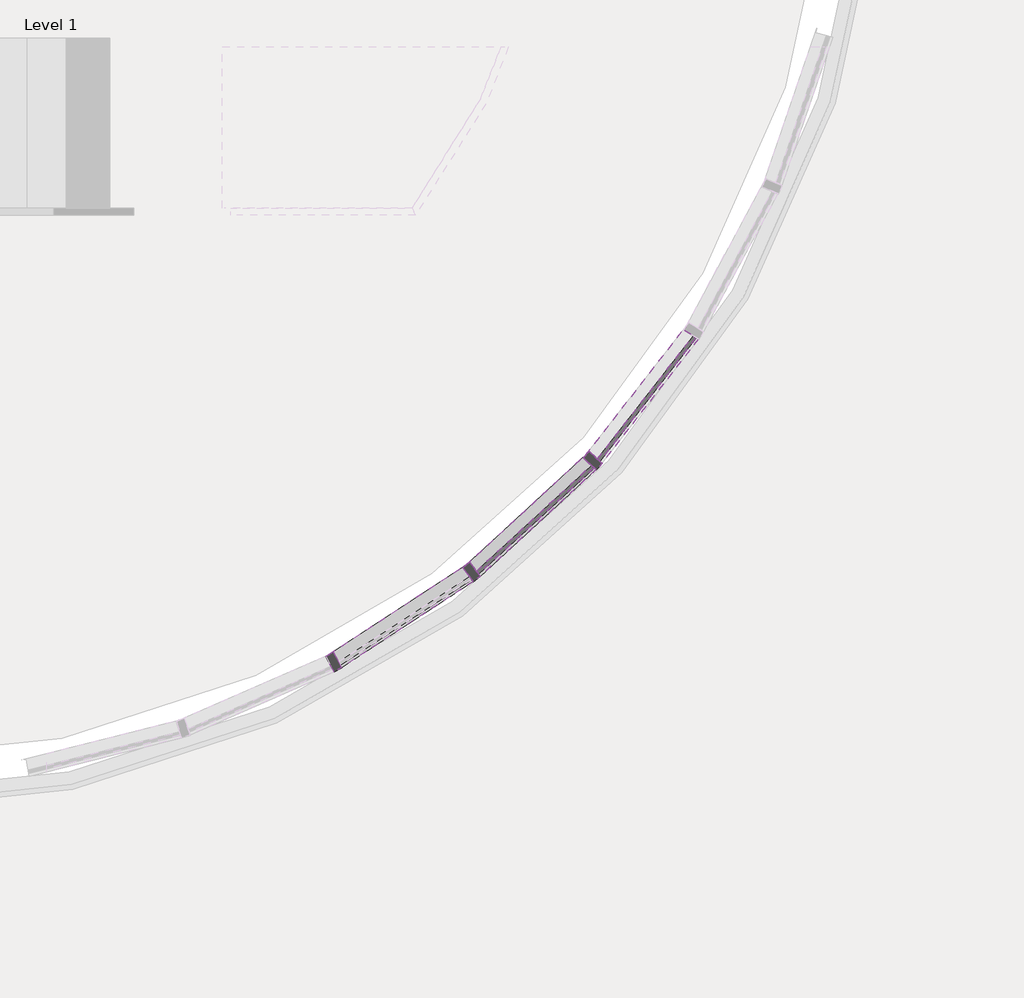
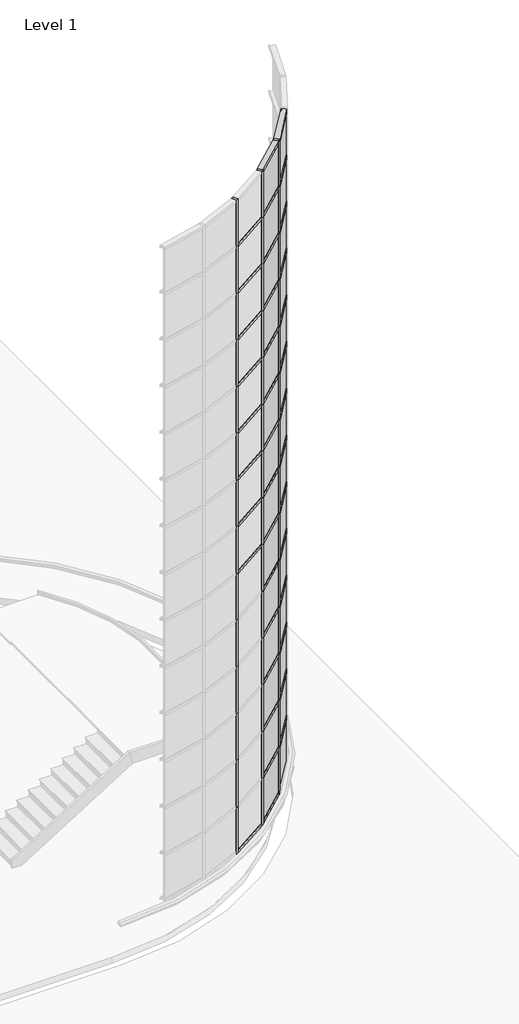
# One storey, part 6 of 20: 80 members, 28 plates.
"""IFC4 building model written with IfcOpenShell, lengths in millimetres."""

from ifc_helpers import new_model, si_unit, origin, place, context, project, spatial, transform, mapped, element, save
from components import member_68fe8548, member_f830fa99, member_935f61b8, system_panel_glazed_da602fa6, system_panel_glazed_77fd207e

model = new_model("IFC4")

# Units and contexts
model_context = context("Model", 3, world=origin())
ifc_project = project(units=[si_unit("LENGTHUNIT", "METRE", prefix="MILLI")], contexts=[model_context])

# Site, building, storey
site = spatial("IfcSite", under=ifc_project)
building = spatial("IfcBuilding", under=site)
storey = spatial("IfcBuildingStorey", under=building, Name="Level 1", Elevation=0.0)

# Members
placement = place(None, origin())
member_shape = member_68fe8548(model_context)
element("IfcMember", 1, ObjectType="Rectangular Mullion : 2.5\" x 5\" rectangular", at=placement, inside=storey, context=model_context, shape_type="MappedRepresentation", body=[
    mapped(member_shape, transform((23209.7590298, -7315.8596282, 17983.2), x_axis=(0.0, 0.0, 1.0), y_axis=(-0.7891405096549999, 0.6142127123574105, 0.0), z_axis=(-0.6142127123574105, -0.7891405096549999, 0.0))),
])
element("IfcMember", 2, ObjectType="Rectangular Mullion : 2.5\" x 5\" rectangular", at=placement, inside=storey, context=model_context, shape_type="MappedRepresentation", body=[
    mapped(member_shape, transform((22346.1500877, -8117.9707079, 17983.2), x_axis=(0.0, 0.0, 1.0), y_axis=(-0.6772815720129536, 0.7357239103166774, 0.0), z_axis=(-0.7357239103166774, -0.6772815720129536, 0.0))),
])
element("IfcMember", 3, ObjectType="Rectangular Mullion : 2.5\" x 5\" rectangular", at=placement, inside=storey, context=model_context, shape_type="MappedRepresentation", body=[
    mapped(member_shape, transform((23166.898542, -7362.4185293, 1092.2), x_axis=(0.0, 0.0, -1.0), y_axis=(-0.6772815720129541, 0.735723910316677, 0.0), z_axis=(0.7357239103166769, 0.677281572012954, 0.0))),
])
element("IfcMember", 4, ObjectType="Rectangular Mullion : 2.5\" x 5\" rectangular", at=placement, inside=storey, context=model_context, shape_type="MappedRepresentation", body=[
    mapped(member_shape, transform((22296.2108179, -8156.8400019, 1092.2), x_axis=(0.0, 0.0, -1.0), y_axis=(-0.5469481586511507, 0.8371664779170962, 0.0), z_axis=(0.8371664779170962, 0.5469481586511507, 0.0))),
])
member_2_shape = member_f830fa99(model_context)
element("IfcMember", 5, ObjectType="Rectangular Mullion : 2.5\" x 5\" rectangular", at=placement, inside=storey, context=model_context, shape_type="MappedRepresentation", body=[
    mapped(member_2_shape, transform((23209.7590298, -7315.8596282, 2298.7), x_axis=(0.0, 0.0, 1.0), y_axis=(-0.7891405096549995, 0.6142127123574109, 0.0), z_axis=(-0.6142127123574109, -0.7891405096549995, 0.0))),
])
element("IfcMember", 6, ObjectType="Rectangular Mullion : 2.5\" x 5\" rectangular", at=placement, inside=storey, context=model_context, shape_type="MappedRepresentation", body=[
    mapped(member_2_shape, transform((22346.1500877, -8117.9707079, 2298.7), x_axis=(0.0, 0.0, 1.0), y_axis=(-0.6772815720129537, 0.7357239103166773, 0.0), z_axis=(-0.7357239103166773, -0.6772815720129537, 0.0))),
])
element("IfcMember", 7, ObjectType="Rectangular Mullion : 2.5\" x 5\" rectangular", at=placement, inside=storey, context=model_context, shape_type="MappedRepresentation", body=[
    mapped(member_2_shape, transform((23209.7590298, -7315.8596282, 3505.2), x_axis=(0.0, 0.0, 1.0), y_axis=(-0.7891405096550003, 0.6142127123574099, 0.0), z_axis=(-0.6142127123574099, -0.7891405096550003, 0.0))),
])
element("IfcMember", 8, ObjectType="Rectangular Mullion : 2.5\" x 5\" rectangular", at=placement, inside=storey, context=model_context, shape_type="MappedRepresentation", body=[
    mapped(member_2_shape, transform((22346.1500877, -8117.9707079, 3505.2), x_axis=(0.0, 0.0, 1.0), y_axis=(-0.6772815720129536, 0.7357239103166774, 0.0), z_axis=(-0.7357239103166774, -0.6772815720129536, 0.0))),
])
element("IfcMember", 9, ObjectType="Rectangular Mullion : 2.5\" x 5\" rectangular", at=placement, inside=storey, context=model_context, shape_type="MappedRepresentation", body=[
    mapped(member_2_shape, transform((23209.7590298, -7315.8596282, 4711.7), x_axis=(0.0, 0.0, 1.0), y_axis=(-0.7891405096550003, 0.6142127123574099, 0.0), z_axis=(-0.6142127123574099, -0.7891405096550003, 0.0))),
])
element("IfcMember", 10, ObjectType="Rectangular Mullion : 2.5\" x 5\" rectangular", at=placement, inside=storey, context=model_context, shape_type="MappedRepresentation", body=[
    mapped(member_2_shape, transform((22346.1500877, -8117.9707079, 4711.7), x_axis=(0.0, 0.0, 1.0), y_axis=(-0.6772815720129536, 0.7357239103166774, 0.0), z_axis=(-0.7357239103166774, -0.6772815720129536, 0.0))),
])
element("IfcMember", 11, ObjectType="Rectangular Mullion : 2.5\" x 5\" rectangular", at=placement, inside=storey, context=model_context, shape_type="MappedRepresentation", body=[
    mapped(member_2_shape, transform((23209.7590298, -7315.8596282, 5918.2), x_axis=(0.0, 0.0, 1.0), y_axis=(-0.7891405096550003, 0.6142127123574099, 0.0), z_axis=(-0.6142127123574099, -0.7891405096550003, 0.0))),
])
element("IfcMember", 12, ObjectType="Rectangular Mullion : 2.5\" x 5\" rectangular", at=placement, inside=storey, context=model_context, shape_type="MappedRepresentation", body=[
    mapped(member_2_shape, transform((22346.1500877, -8117.9707079, 5918.2), x_axis=(0.0, 0.0, 1.0), y_axis=(-0.6772815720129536, 0.7357239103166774, 0.0), z_axis=(-0.7357239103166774, -0.6772815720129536, 0.0))),
])
element("IfcMember", 13, ObjectType="Rectangular Mullion : 2.5\" x 5\" rectangular", at=placement, inside=storey, context=model_context, shape_type="MappedRepresentation", body=[
    mapped(member_2_shape, transform((23209.7590298, -7315.8596282, 7124.7), x_axis=(0.0, 0.0, 1.0), y_axis=(-0.7891405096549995, 0.6142127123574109, 0.0), z_axis=(-0.6142127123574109, -0.7891405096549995, 0.0))),
])
element("IfcMember", 14, ObjectType="Rectangular Mullion : 2.5\" x 5\" rectangular", at=placement, inside=storey, context=model_context, shape_type="MappedRepresentation", body=[
    mapped(member_2_shape, transform((22346.1500877, -8117.9707079, 7124.7), x_axis=(0.0, 0.0, 1.0), y_axis=(-0.6772815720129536, 0.7357239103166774, 0.0), z_axis=(-0.7357239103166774, -0.6772815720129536, 0.0))),
])
element("IfcMember", 15, ObjectType="Rectangular Mullion : 2.5\" x 5\" rectangular", at=placement, inside=storey, context=model_context, shape_type="MappedRepresentation", body=[
    mapped(member_2_shape, transform((23209.7590298, -7315.8596282, 8331.2), x_axis=(0.0, 0.0, 1.0), y_axis=(-0.7891405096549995, 0.6142127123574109, 0.0), z_axis=(-0.6142127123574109, -0.7891405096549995, 0.0))),
])
element("IfcMember", 16, ObjectType="Rectangular Mullion : 2.5\" x 5\" rectangular", at=placement, inside=storey, context=model_context, shape_type="MappedRepresentation", body=[
    mapped(member_2_shape, transform((22346.1500877, -8117.9707079, 8331.2), x_axis=(0.0, 0.0, 1.0), y_axis=(-0.6772815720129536, 0.7357239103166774, 0.0), z_axis=(-0.7357239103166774, -0.6772815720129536, 0.0))),
])
element("IfcMember", 17, ObjectType="Rectangular Mullion : 2.5\" x 5\" rectangular", at=placement, inside=storey, context=model_context, shape_type="MappedRepresentation", body=[
    mapped(member_2_shape, transform((21362.2965016, -8766.9966782, 8331.2), x_axis=(0.0, 0.0, 1.0), y_axis=(-0.5469481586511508, 0.837166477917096, 0.0), z_axis=(-0.837166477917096, -0.5469481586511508, 0.0))),
])
element("IfcMember", 18, ObjectType="Rectangular Mullion : 2.5\" x 5\" rectangular", at=placement, inside=storey, context=model_context, shape_type="MappedRepresentation", body=[
    mapped(member_2_shape, transform((23209.7590298, -7315.8596282, 9537.7), x_axis=(0.0, 0.0, 1.0), y_axis=(-0.7891405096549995, 0.6142127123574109, 0.0), z_axis=(-0.6142127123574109, -0.7891405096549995, 0.0))),
])
element("IfcMember", 19, ObjectType="Rectangular Mullion : 2.5\" x 5\" rectangular", at=placement, inside=storey, context=model_context, shape_type="MappedRepresentation", body=[
    mapped(member_2_shape, transform((22346.1500877, -8117.9707079, 9537.7), x_axis=(0.0, 0.0, 1.0), y_axis=(-0.6772815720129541, 0.735723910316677, 0.0), z_axis=(-0.7357239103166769, -0.677281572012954, 0.0))),
])
element("IfcMember", 20, ObjectType="Rectangular Mullion : 2.5\" x 5\" rectangular", at=placement, inside=storey, context=model_context, shape_type="MappedRepresentation", body=[
    mapped(member_2_shape, transform((21362.2965016, -8766.9966782, 9537.7), x_axis=(0.0, 0.0, 1.0), y_axis=(-0.5469481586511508, 0.837166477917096, 0.0), z_axis=(-0.837166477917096, -0.5469481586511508, 0.0))),
])
element("IfcMember", 21, ObjectType="Rectangular Mullion : 2.5\" x 5\" rectangular", at=placement, inside=storey, context=model_context, shape_type="MappedRepresentation", body=[
    mapped(member_2_shape, transform((23209.7590298, -7315.8596282, 10744.2), x_axis=(0.0, 0.0, 1.0), y_axis=(-0.7891405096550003, 0.6142127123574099, 0.0), z_axis=(-0.6142127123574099, -0.7891405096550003, 0.0))),
])
element("IfcMember", 22, ObjectType="Rectangular Mullion : 2.5\" x 5\" rectangular", at=placement, inside=storey, context=model_context, shape_type="MappedRepresentation", body=[
    mapped(member_2_shape, transform((22346.1500877, -8117.9707079, 10744.2), x_axis=(0.0, 0.0, 1.0), y_axis=(-0.6772815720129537, 0.7357239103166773, 0.0), z_axis=(-0.7357239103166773, -0.6772815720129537, 0.0))),
])
element("IfcMember", 23, ObjectType="Rectangular Mullion : 2.5\" x 5\" rectangular", at=placement, inside=storey, context=model_context, shape_type="MappedRepresentation", body=[
    mapped(member_2_shape, transform((21362.2965016, -8766.9966782, 10744.2), x_axis=(0.0, 0.0, 1.0), y_axis=(-0.5469481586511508, 0.837166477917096, 0.0), z_axis=(-0.837166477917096, -0.5469481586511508, 0.0))),
])
element("IfcMember", 24, ObjectType="Rectangular Mullion : 2.5\" x 5\" rectangular", at=placement, inside=storey, context=model_context, shape_type="MappedRepresentation", body=[
    mapped(member_2_shape, transform((23209.7590298, -7315.8596282, 11950.7), x_axis=(0.0, 0.0, 1.0), y_axis=(-0.7891405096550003, 0.6142127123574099, 0.0), z_axis=(-0.6142127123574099, -0.7891405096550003, 0.0))),
])
element("IfcMember", 25, ObjectType="Rectangular Mullion : 2.5\" x 5\" rectangular", at=placement, inside=storey, context=model_context, shape_type="MappedRepresentation", body=[
    mapped(member_2_shape, transform((22346.1500877, -8117.9707079, 11950.7), x_axis=(0.0, 0.0, 1.0), y_axis=(-0.6772815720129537, 0.7357239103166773, 0.0), z_axis=(-0.7357239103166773, -0.6772815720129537, 0.0))),
])
element("IfcMember", 26, ObjectType="Rectangular Mullion : 2.5\" x 5\" rectangular", at=placement, inside=storey, context=model_context, shape_type="MappedRepresentation", body=[
    mapped(member_2_shape, transform((21362.2965016, -8766.9966782, 11950.7), x_axis=(0.0, 0.0, 1.0), y_axis=(-0.5469481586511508, 0.837166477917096, 0.0), z_axis=(-0.837166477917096, -0.5469481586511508, 0.0))),
])
element("IfcMember", 27, ObjectType="Rectangular Mullion : 2.5\" x 5\" rectangular", at=placement, inside=storey, context=model_context, shape_type="MappedRepresentation", body=[
    mapped(member_2_shape, transform((23209.7590298, -7315.8596282, 13157.2), x_axis=(0.0, 0.0, 1.0), y_axis=(-0.7891405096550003, 0.6142127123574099, 0.0), z_axis=(-0.6142127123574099, -0.7891405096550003, 0.0))),
])
element("IfcMember", 28, ObjectType="Rectangular Mullion : 2.5\" x 5\" rectangular", at=placement, inside=storey, context=model_context, shape_type="MappedRepresentation", body=[
    mapped(member_2_shape, transform((22346.1500877, -8117.9707079, 13157.2), x_axis=(0.0, 0.0, 1.0), y_axis=(-0.6772815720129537, 0.7357239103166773, 0.0), z_axis=(-0.7357239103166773, -0.6772815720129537, 0.0))),
])
element("IfcMember", 29, ObjectType="Rectangular Mullion : 2.5\" x 5\" rectangular", at=placement, inside=storey, context=model_context, shape_type="MappedRepresentation", body=[
    mapped(member_2_shape, transform((21362.2965016, -8766.9966782, 13157.2), x_axis=(0.0, 0.0, 1.0), y_axis=(-0.5469481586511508, 0.837166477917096, 0.0), z_axis=(-0.837166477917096, -0.5469481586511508, 0.0))),
])
element("IfcMember", 30, ObjectType="Rectangular Mullion : 2.5\" x 5\" rectangular", at=placement, inside=storey, context=model_context, shape_type="MappedRepresentation", body=[
    mapped(member_2_shape, transform((23209.7590298, -7315.8596282, 14363.7), x_axis=(0.0, 0.0, 1.0), y_axis=(-0.7891405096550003, 0.6142127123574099, 0.0), z_axis=(-0.6142127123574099, -0.7891405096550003, 0.0))),
])
element("IfcMember", 31, ObjectType="Rectangular Mullion : 2.5\" x 5\" rectangular", at=placement, inside=storey, context=model_context, shape_type="MappedRepresentation", body=[
    mapped(member_2_shape, transform((22346.1500877, -8117.9707079, 14363.7), x_axis=(0.0, 0.0, 1.0), y_axis=(-0.6772815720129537, 0.7357239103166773, 0.0), z_axis=(-0.7357239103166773, -0.6772815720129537, 0.0))),
])
element("IfcMember", 32, ObjectType="Rectangular Mullion : 2.5\" x 5\" rectangular", at=placement, inside=storey, context=model_context, shape_type="MappedRepresentation", body=[
    mapped(member_2_shape, transform((21362.2965016, -8766.9966782, 14363.7), x_axis=(0.0, 0.0, 1.0), y_axis=(-0.5469481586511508, 0.837166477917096, 0.0), z_axis=(-0.837166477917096, -0.5469481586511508, 0.0))),
])
element("IfcMember", 33, ObjectType="Rectangular Mullion : 2.5\" x 5\" rectangular", at=placement, inside=storey, context=model_context, shape_type="MappedRepresentation", body=[
    mapped(member_2_shape, transform((23209.7590298, -7315.8596282, 15570.2), x_axis=(0.0, 0.0, 1.0), y_axis=(-0.7891405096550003, 0.6142127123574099, 0.0), z_axis=(-0.6142127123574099, -0.7891405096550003, 0.0))),
])
element("IfcMember", 34, ObjectType="Rectangular Mullion : 2.5\" x 5\" rectangular", at=placement, inside=storey, context=model_context, shape_type="MappedRepresentation", body=[
    mapped(member_2_shape, transform((22346.1500877, -8117.9707079, 15570.2), x_axis=(0.0, 0.0, 1.0), y_axis=(-0.6772815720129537, 0.7357239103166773, 0.0), z_axis=(-0.7357239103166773, -0.6772815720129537, 0.0))),
])
element("IfcMember", 35, ObjectType="Rectangular Mullion : 2.5\" x 5\" rectangular", at=placement, inside=storey, context=model_context, shape_type="MappedRepresentation", body=[
    mapped(member_2_shape, transform((21362.2965016, -8766.9966782, 15570.2), x_axis=(0.0, 0.0, 1.0), y_axis=(-0.5469481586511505, 0.8371664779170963, 0.0), z_axis=(-0.8371664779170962, -0.5469481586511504, 0.0))),
])
element("IfcMember", 36, ObjectType="Rectangular Mullion : 2.5\" x 5\" rectangular", at=placement, inside=storey, context=model_context, shape_type="MappedRepresentation", body=[
    mapped(member_2_shape, transform((23209.7590298, -7315.8596282, 16776.7), x_axis=(0.0, 0.0, 1.0), y_axis=(-0.7891405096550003, 0.6142127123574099, 0.0), z_axis=(-0.6142127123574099, -0.7891405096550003, 0.0))),
])
element("IfcMember", 37, ObjectType="Rectangular Mullion : 2.5\" x 5\" rectangular", at=placement, inside=storey, context=model_context, shape_type="MappedRepresentation", body=[
    mapped(member_2_shape, transform((22346.1500877, -8117.9707079, 16776.7), x_axis=(0.0, 0.0, 1.0), y_axis=(-0.6772815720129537, 0.7357239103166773, 0.0), z_axis=(-0.7357239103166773, -0.6772815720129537, 0.0))),
])
element("IfcMember", 38, ObjectType="Rectangular Mullion : 2.5\" x 5\" rectangular", at=placement, inside=storey, context=model_context, shape_type="MappedRepresentation", body=[
    mapped(member_2_shape, transform((21362.2965016, -8766.9966782, 16776.7), x_axis=(0.0, 0.0, 1.0), y_axis=(-0.5469481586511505, 0.8371664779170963, 0.0), z_axis=(-0.8371664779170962, -0.5469481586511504, 0.0))),
])
member_3_shape = member_935f61b8(model_context)
element("IfcMember", 39, ObjectType="Rectangular Mullion : 2.5\" x 5\" rectangular", at=placement, inside=storey, context=model_context, shape_type="MappedRepresentation", body=[
    mapped(member_3_shape, transform((23190.2577761, -7340.9148394, 1092.2), x_axis=(-0.6772815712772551, -0.7357239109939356, 0.0), y_axis=(-0.7357239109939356, 0.6772815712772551, 0.0), z_axis=(0.0, 0.0, -1.0))),
])
element("IfcMember", 40, ObjectType="Rectangular Mullion : 2.5\" x 5\" rectangular", at=placement, inside=storey, context=model_context, shape_type="MappedRepresentation", body=[
    mapped(member_3_shape, transform((22322.7908536, -8139.4743979, 1092.2), x_axis=(-0.7891405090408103, -0.6142127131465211, 0.0), y_axis=(-0.6142127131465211, 0.7891405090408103, 0.0), z_axis=(0.0, 0.0, -1.0))),
])
element("IfcMember", 41, ObjectType="Rectangular Mullion : 2.5\" x 5\" rectangular", at=placement, inside=storey, context=model_context, shape_type="MappedRepresentation", body=[
    mapped(member_3_shape, transform((21335.7164659, -8784.3622822, 1092.2), x_axis=(-0.8794737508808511, -0.47594739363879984, 0.0), y_axis=(-0.47594739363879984, 0.8794737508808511, 0.0), z_axis=(0.0, 0.0, -1.0))),
])
element("IfcMember", 42, ObjectType="Rectangular Mullion : 2.5\" x 5\" rectangular", at=placement, inside=storey, context=model_context, shape_type="MappedRepresentation", body=[
    mapped(member_3_shape, transform((23190.2577761, -7340.9148394, 2298.7), x_axis=(-0.6772815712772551, -0.7357239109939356, 0.0), y_axis=(-0.7357239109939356, 0.6772815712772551, 0.0), z_axis=(0.0, 0.0, -1.0))),
])
element("IfcMember", 43, ObjectType="Rectangular Mullion : 2.5\" x 5\" rectangular", at=placement, inside=storey, context=model_context, shape_type="MappedRepresentation", body=[
    mapped(member_3_shape, transform((22322.7908536, -8139.4743979, 2298.7), x_axis=(-0.7891405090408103, -0.6142127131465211, 0.0), y_axis=(-0.6142127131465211, 0.7891405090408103, 0.0), z_axis=(0.0, 0.0, -1.0))),
])
element("IfcMember", 44, ObjectType="Rectangular Mullion : 2.5\" x 5\" rectangular", at=placement, inside=storey, context=model_context, shape_type="MappedRepresentation", body=[
    mapped(member_3_shape, transform((21335.7164659, -8784.3622822, 2298.7), x_axis=(-0.8794737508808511, -0.47594739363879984, 0.0), y_axis=(-0.47594739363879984, 0.8794737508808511, 0.0), z_axis=(0.0, 0.0, -1.0))),
])
element("IfcMember", 45, ObjectType="Rectangular Mullion : 2.5\" x 5\" rectangular", at=placement, inside=storey, context=model_context, shape_type="MappedRepresentation", body=[
    mapped(member_3_shape, transform((23190.2577761, -7340.9148394, 3505.2), x_axis=(-0.6772815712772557, -0.735723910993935, 0.0), y_axis=(-0.735723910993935, 0.6772815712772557, 0.0), z_axis=(0.0, 0.0, -1.0))),
])
element("IfcMember", 46, ObjectType="Rectangular Mullion : 2.5\" x 5\" rectangular", at=placement, inside=storey, context=model_context, shape_type="MappedRepresentation", body=[
    mapped(member_3_shape, transform((22322.7908536, -8139.4743979, 3505.2), x_axis=(-0.7891405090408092, -0.6142127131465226, 0.0), y_axis=(-0.6142127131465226, 0.7891405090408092, 0.0), z_axis=(0.0, 0.0, -1.0))),
])
element("IfcMember", 47, ObjectType="Rectangular Mullion : 2.5\" x 5\" rectangular", at=placement, inside=storey, context=model_context, shape_type="MappedRepresentation", body=[
    mapped(member_3_shape, transform((21335.7164659, -8784.3622822, 3505.2), x_axis=(-0.8794737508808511, -0.47594739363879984, 0.0), y_axis=(-0.47594739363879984, 0.8794737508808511, 0.0), z_axis=(0.0, 0.0, -1.0))),
])
element("IfcMember", 48, ObjectType="Rectangular Mullion : 2.5\" x 5\" rectangular", at=placement, inside=storey, context=model_context, shape_type="MappedRepresentation", body=[
    mapped(member_3_shape, transform((23190.2577761, -7340.9148394, 4711.7), x_axis=(-0.6772815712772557, -0.735723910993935, 0.0), y_axis=(-0.735723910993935, 0.6772815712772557, 0.0), z_axis=(0.0, 0.0, -1.0))),
])
element("IfcMember", 49, ObjectType="Rectangular Mullion : 2.5\" x 5\" rectangular", at=placement, inside=storey, context=model_context, shape_type="MappedRepresentation", body=[
    mapped(member_3_shape, transform((22322.7908536, -8139.4743979, 4711.7), x_axis=(-0.7891405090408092, -0.6142127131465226, 0.0), y_axis=(-0.6142127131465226, 0.7891405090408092, 0.0), z_axis=(0.0, 0.0, -1.0))),
])
element("IfcMember", 50, ObjectType="Rectangular Mullion : 2.5\" x 5\" rectangular", at=placement, inside=storey, context=model_context, shape_type="MappedRepresentation", body=[
    mapped(member_3_shape, transform((21335.7164659, -8784.3622822, 4711.7), x_axis=(-0.8794737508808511, -0.47594739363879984, 0.0), y_axis=(-0.47594739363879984, 0.8794737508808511, 0.0), z_axis=(0.0, 0.0, -1.0))),
])
element("IfcMember", 51, ObjectType="Rectangular Mullion : 2.5\" x 5\" rectangular", at=placement, inside=storey, context=model_context, shape_type="MappedRepresentation", body=[
    mapped(member_3_shape, transform((23190.2577761, -7340.9148394, 5918.2), x_axis=(-0.6772815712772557, -0.735723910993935, 0.0), y_axis=(-0.735723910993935, 0.6772815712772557, 0.0), z_axis=(0.0, 0.0, -1.0))),
])
element("IfcMember", 52, ObjectType="Rectangular Mullion : 2.5\" x 5\" rectangular", at=placement, inside=storey, context=model_context, shape_type="MappedRepresentation", body=[
    mapped(member_3_shape, transform((22322.7908536, -8139.4743979, 5918.2), x_axis=(-0.7891405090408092, -0.6142127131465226, 0.0), y_axis=(-0.6142127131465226, 0.7891405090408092, 0.0), z_axis=(0.0, 0.0, -1.0))),
])
element("IfcMember", 53, ObjectType="Rectangular Mullion : 2.5\" x 5\" rectangular", at=placement, inside=storey, context=model_context, shape_type="MappedRepresentation", body=[
    mapped(member_3_shape, transform((21335.7164659, -8784.3622822, 5918.2), x_axis=(-0.8794737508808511, -0.47594739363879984, 0.0), y_axis=(-0.47594739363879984, 0.8794737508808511, 0.0), z_axis=(0.0, 0.0, -1.0))),
])
element("IfcMember", 54, ObjectType="Rectangular Mullion : 2.5\" x 5\" rectangular", at=placement, inside=storey, context=model_context, shape_type="MappedRepresentation", body=[
    mapped(member_3_shape, transform((23190.2577761, -7340.9148394, 7124.7), x_axis=(-0.6772815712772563, -0.7357239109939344, 0.0), y_axis=(-0.7357239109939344, 0.6772815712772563, 0.0), z_axis=(0.0, 0.0, -1.0))),
])
element("IfcMember", 55, ObjectType="Rectangular Mullion : 2.5\" x 5\" rectangular", at=placement, inside=storey, context=model_context, shape_type="MappedRepresentation", body=[
    mapped(member_3_shape, transform((22322.7908536, -8139.4743979, 7124.7), x_axis=(-0.7891405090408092, -0.6142127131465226, 0.0), y_axis=(-0.6142127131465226, 0.7891405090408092, 0.0), z_axis=(0.0, 0.0, -1.0))),
])
element("IfcMember", 56, ObjectType="Rectangular Mullion : 2.5\" x 5\" rectangular", at=placement, inside=storey, context=model_context, shape_type="MappedRepresentation", body=[
    mapped(member_3_shape, transform((21335.7164659, -8784.3622822, 7124.7), x_axis=(-0.8794737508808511, -0.47594739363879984, 0.0), y_axis=(-0.47594739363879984, 0.8794737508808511, 0.0), z_axis=(0.0, 0.0, -1.0))),
])
element("IfcMember", 57, ObjectType="Rectangular Mullion : 2.5\" x 5\" rectangular", at=placement, inside=storey, context=model_context, shape_type="MappedRepresentation", body=[
    mapped(member_3_shape, transform((23190.2577761, -7340.9148394, 8331.2), x_axis=(-0.6772815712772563, -0.7357239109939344, 0.0), y_axis=(-0.7357239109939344, 0.6772815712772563, 0.0), z_axis=(0.0, 0.0, -1.0))),
])
element("IfcMember", 58, ObjectType="Rectangular Mullion : 2.5\" x 5\" rectangular", at=placement, inside=storey, context=model_context, shape_type="MappedRepresentation", body=[
    mapped(member_3_shape, transform((22322.7908536, -8139.4743979, 8331.2), x_axis=(-0.7891405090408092, -0.6142127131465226, 0.0), y_axis=(-0.6142127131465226, 0.7891405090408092, 0.0), z_axis=(0.0, 0.0, -1.0))),
])
element("IfcMember", 59, ObjectType="Rectangular Mullion : 2.5\" x 5\" rectangular", at=placement, inside=storey, context=model_context, shape_type="MappedRepresentation", body=[
    mapped(member_3_shape, transform((21335.7164659, -8784.3622822, 8331.2), x_axis=(-0.8794737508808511, -0.47594739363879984, 0.0), y_axis=(-0.47594739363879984, 0.8794737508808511, 0.0), z_axis=(0.0, 0.0, -1.0))),
])
element("IfcMember", 60, ObjectType="Rectangular Mullion : 2.5\" x 5\" rectangular", at=placement, inside=storey, context=model_context, shape_type="MappedRepresentation", body=[
    mapped(member_3_shape, transform((23190.2577761, -7340.9148394, 9537.7), x_axis=(-0.6772815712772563, -0.7357239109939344, 0.0), y_axis=(-0.7357239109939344, 0.6772815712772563, 0.0), z_axis=(0.0, 0.0, -1.0))),
])
element("IfcMember", 61, ObjectType="Rectangular Mullion : 2.5\" x 5\" rectangular", at=placement, inside=storey, context=model_context, shape_type="MappedRepresentation", body=[
    mapped(member_3_shape, transform((22322.7908536, -8139.4743979, 9537.7), x_axis=(-0.7891405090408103, -0.6142127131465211, 0.0), y_axis=(-0.6142127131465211, 0.7891405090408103, 0.0), z_axis=(0.0, 0.0, -1.0))),
])
element("IfcMember", 62, ObjectType="Rectangular Mullion : 2.5\" x 5\" rectangular", at=placement, inside=storey, context=model_context, shape_type="MappedRepresentation", body=[
    mapped(member_3_shape, transform((21335.7164659, -8784.3622822, 9537.7), x_axis=(-0.8794737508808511, -0.47594739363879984, 0.0), y_axis=(-0.47594739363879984, 0.8794737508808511, 0.0), z_axis=(0.0, 0.0, -1.0))),
])
element("IfcMember", 63, ObjectType="Rectangular Mullion : 2.5\" x 5\" rectangular", at=placement, inside=storey, context=model_context, shape_type="MappedRepresentation", body=[
    mapped(member_3_shape, transform((23190.2577761, -7340.9148394, 10744.2), x_axis=(-0.6772815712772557, -0.735723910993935, 0.0), y_axis=(-0.735723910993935, 0.6772815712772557, 0.0), z_axis=(0.0, 0.0, -1.0))),
])
element("IfcMember", 64, ObjectType="Rectangular Mullion : 2.5\" x 5\" rectangular", at=placement, inside=storey, context=model_context, shape_type="MappedRepresentation", body=[
    mapped(member_3_shape, transform((22322.7908536, -8139.4743979, 10744.2), x_axis=(-0.7891405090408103, -0.6142127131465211, 0.0), y_axis=(-0.6142127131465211, 0.7891405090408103, 0.0), z_axis=(0.0, 0.0, -1.0))),
])
element("IfcMember", 65, ObjectType="Rectangular Mullion : 2.5\" x 5\" rectangular", at=placement, inside=storey, context=model_context, shape_type="MappedRepresentation", body=[
    mapped(member_3_shape, transform((21335.7164659, -8784.3622822, 10744.2), x_axis=(-0.8794737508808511, -0.47594739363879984, 0.0), y_axis=(-0.47594739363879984, 0.8794737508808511, 0.0), z_axis=(0.0, 0.0, -1.0))),
])
element("IfcMember", 66, ObjectType="Rectangular Mullion : 2.5\" x 5\" rectangular", at=placement, inside=storey, context=model_context, shape_type="MappedRepresentation", body=[
    mapped(member_3_shape, transform((23190.2577761, -7340.9148394, 11950.7), x_axis=(-0.6772815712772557, -0.735723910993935, 0.0), y_axis=(-0.735723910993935, 0.6772815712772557, 0.0), z_axis=(0.0, 0.0, -1.0))),
])
element("IfcMember", 67, ObjectType="Rectangular Mullion : 2.5\" x 5\" rectangular", at=placement, inside=storey, context=model_context, shape_type="MappedRepresentation", body=[
    mapped(member_3_shape, transform((22322.7908536, -8139.4743979, 11950.7), x_axis=(-0.7891405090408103, -0.6142127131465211, 0.0), y_axis=(-0.6142127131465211, 0.7891405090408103, 0.0), z_axis=(0.0, 0.0, -1.0))),
])
element("IfcMember", 68, ObjectType="Rectangular Mullion : 2.5\" x 5\" rectangular", at=placement, inside=storey, context=model_context, shape_type="MappedRepresentation", body=[
    mapped(member_3_shape, transform((21335.7164659, -8784.3622822, 11950.7), x_axis=(-0.8794737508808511, -0.47594739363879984, 0.0), y_axis=(-0.47594739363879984, 0.8794737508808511, 0.0), z_axis=(0.0, 0.0, -1.0))),
])
element("IfcMember", 69, ObjectType="Rectangular Mullion : 2.5\" x 5\" rectangular", at=placement, inside=storey, context=model_context, shape_type="MappedRepresentation", body=[
    mapped(member_3_shape, transform((23190.2577761, -7340.9148394, 13157.2), x_axis=(-0.6772815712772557, -0.735723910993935, 0.0), y_axis=(-0.735723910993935, 0.6772815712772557, 0.0), z_axis=(0.0, 0.0, -1.0))),
])
element("IfcMember", 70, ObjectType="Rectangular Mullion : 2.5\" x 5\" rectangular", at=placement, inside=storey, context=model_context, shape_type="MappedRepresentation", body=[
    mapped(member_3_shape, transform((22322.7908536, -8139.4743979, 13157.2), x_axis=(-0.7891405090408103, -0.6142127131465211, 0.0), y_axis=(-0.6142127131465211, 0.7891405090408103, 0.0), z_axis=(0.0, 0.0, -1.0))),
])
element("IfcMember", 71, ObjectType="Rectangular Mullion : 2.5\" x 5\" rectangular", at=placement, inside=storey, context=model_context, shape_type="MappedRepresentation", body=[
    mapped(member_3_shape, transform((21335.7164659, -8784.3622822, 13157.2), x_axis=(-0.8794737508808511, -0.47594739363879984, 0.0), y_axis=(-0.47594739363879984, 0.8794737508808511, 0.0), z_axis=(0.0, 0.0, -1.0))),
])
element("IfcMember", 72, ObjectType="Rectangular Mullion : 2.5\" x 5\" rectangular", at=placement, inside=storey, context=model_context, shape_type="MappedRepresentation", body=[
    mapped(member_3_shape, transform((23190.2577761, -7340.9148394, 14363.7), x_axis=(-0.6772815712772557, -0.735723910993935, 0.0), y_axis=(-0.735723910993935, 0.6772815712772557, 0.0), z_axis=(0.0, 0.0, -1.0))),
])
element("IfcMember", 73, ObjectType="Rectangular Mullion : 2.5\" x 5\" rectangular", at=placement, inside=storey, context=model_context, shape_type="MappedRepresentation", body=[
    mapped(member_3_shape, transform((22322.7908536, -8139.4743979, 14363.7), x_axis=(-0.7891405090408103, -0.6142127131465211, 0.0), y_axis=(-0.6142127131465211, 0.7891405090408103, 0.0), z_axis=(0.0, 0.0, -1.0))),
])
element("IfcMember", 74, ObjectType="Rectangular Mullion : 2.5\" x 5\" rectangular", at=placement, inside=storey, context=model_context, shape_type="MappedRepresentation", body=[
    mapped(member_3_shape, transform((21335.7164659, -8784.3622822, 14363.7), x_axis=(-0.8794737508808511, -0.47594739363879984, 0.0), y_axis=(-0.47594739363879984, 0.8794737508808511, 0.0), z_axis=(0.0, 0.0, -1.0))),
])
element("IfcMember", 75, ObjectType="Rectangular Mullion : 2.5\" x 5\" rectangular", at=placement, inside=storey, context=model_context, shape_type="MappedRepresentation", body=[
    mapped(member_3_shape, transform((23190.2577761, -7340.9148394, 15570.2), x_axis=(-0.6772815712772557, -0.735723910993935, 0.0), y_axis=(-0.735723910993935, 0.6772815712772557, 0.0), z_axis=(0.0, 0.0, -1.0))),
])
element("IfcMember", 76, ObjectType="Rectangular Mullion : 2.5\" x 5\" rectangular", at=placement, inside=storey, context=model_context, shape_type="MappedRepresentation", body=[
    mapped(member_3_shape, transform((22322.7908536, -8139.4743979, 15570.2), x_axis=(-0.7891405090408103, -0.6142127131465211, 0.0), y_axis=(-0.6142127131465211, 0.7891405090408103, 0.0), z_axis=(0.0, 0.0, -1.0))),
])
element("IfcMember", 77, ObjectType="Rectangular Mullion : 2.5\" x 5\" rectangular", at=placement, inside=storey, context=model_context, shape_type="MappedRepresentation", body=[
    mapped(member_3_shape, transform((21335.7164659, -8784.3622822, 15570.2), x_axis=(-0.8794737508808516, -0.47594739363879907, 0.0), y_axis=(-0.47594739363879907, 0.8794737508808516, 0.0), z_axis=(0.0, 0.0, -1.0))),
])
element("IfcMember", 78, ObjectType="Rectangular Mullion : 2.5\" x 5\" rectangular", at=placement, inside=storey, context=model_context, shape_type="MappedRepresentation", body=[
    mapped(member_3_shape, transform((23190.2577761, -7340.9148394, 16776.7), x_axis=(-0.6772815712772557, -0.735723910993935, 0.0), y_axis=(-0.735723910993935, 0.6772815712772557, 0.0), z_axis=(0.0, 0.0, -1.0))),
])
element("IfcMember", 79, ObjectType="Rectangular Mullion : 2.5\" x 5\" rectangular", at=placement, inside=storey, context=model_context, shape_type="MappedRepresentation", body=[
    mapped(member_3_shape, transform((22322.7908536, -8139.4743979, 16776.7), x_axis=(-0.7891405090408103, -0.6142127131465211, 0.0), y_axis=(-0.6142127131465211, 0.7891405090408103, 0.0), z_axis=(0.0, 0.0, -1.0))),
])
element("IfcMember", 80, ObjectType="Rectangular Mullion : 2.5\" x 5\" rectangular", at=placement, inside=storey, context=model_context, shape_type="MappedRepresentation", body=[
    mapped(member_3_shape, transform((21335.7164659, -8784.3622822, 16776.7), x_axis=(-0.8794737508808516, -0.47594739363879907, 0.0), y_axis=(-0.47594739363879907, 0.8794737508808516, 0.0), z_axis=(0.0, 0.0, -1.0))),
])

# Plates
system_panel_glazed_shape = system_panel_glazed_da602fa6(model_context)
element("IfcPlate", 81, ObjectType="System Panel : Glazed", at=placement, inside=storey, context=model_context, shape_type="MappedRepresentation", body=[
    mapped(system_panel_glazed_shape, transform((23552.3563867, -6875.6905346, 1155.7), x_axis=(-0.6142127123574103, -0.789140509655, 0.0), y_axis=(0.789140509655, -0.6142127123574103, 0.0), z_axis=(0.0, 0.0, 1.0))),
])
element("IfcPlate", 82, ObjectType="System Panel : Glazed", at=placement, inside=storey, context=model_context, shape_type="MappedRepresentation", body=[
    mapped(system_panel_glazed_shape, transform((22756.5243149, -7740.1946186, 1155.7), x_axis=(-0.735723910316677, -0.6772815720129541, 0.0), y_axis=(0.6772815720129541, -0.735723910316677, 0.0), z_axis=(0.0, 0.0, 1.0))),
])
element("IfcPlate", 83, ObjectType="System Panel : Glazed", at=placement, inside=storey, context=model_context, shape_type="MappedRepresentation", body=[
    mapped(system_panel_glazed_shape, transform((23552.3563867, -6875.6905346, 16808.45), x_axis=(-0.6142127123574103, -0.789140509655, 0.0), y_axis=(0.789140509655, -0.6142127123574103, 0.0), z_axis=(0.0, 0.0, 1.0))),
])
element("IfcPlate", 84, ObjectType="System Panel : Glazed", at=placement, inside=storey, context=model_context, shape_type="MappedRepresentation", body=[
    mapped(system_panel_glazed_shape, transform((22756.5243149, -7740.1946186, 16808.45), x_axis=(-0.735723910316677, -0.6772815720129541, 0.0), y_axis=(0.6772815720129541, -0.735723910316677, 0.0), z_axis=(0.0, 0.0, 1.0))),
])
system_panel_glazed_2_shape = system_panel_glazed_77fd207e(model_context)
element("IfcPlate", 85, ObjectType="System Panel : Glazed", at=placement, inside=storey, context=model_context, shape_type="MappedRepresentation", body=[
    mapped(system_panel_glazed_2_shape, transform((23552.3563867, -6875.6905346, 2330.45), x_axis=(-0.6142127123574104, -0.7891405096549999, 0.0), y_axis=(0.7891405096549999, -0.6142127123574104, 0.0), z_axis=(0.0, 0.0, 1.0))),
])
element("IfcPlate", 86, ObjectType="System Panel : Glazed", at=placement, inside=storey, context=model_context, shape_type="MappedRepresentation", body=[
    mapped(system_panel_glazed_2_shape, transform((22756.5243149, -7740.1946186, 2330.45), x_axis=(-0.735723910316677, -0.6772815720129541, 0.0), y_axis=(0.6772815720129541, -0.735723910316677, 0.0), z_axis=(0.0, 0.0, 1.0))),
])
element("IfcPlate", 87, ObjectType="System Panel : Glazed", at=placement, inside=storey, context=model_context, shape_type="MappedRepresentation", body=[
    mapped(system_panel_glazed_2_shape, transform((23552.3563867, -6875.6905346, 3536.95), x_axis=(-0.6142127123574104, -0.7891405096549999, 0.0), y_axis=(0.7891405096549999, -0.6142127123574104, 0.0), z_axis=(0.0, 0.0, 1.0))),
])
element("IfcPlate", 88, ObjectType="System Panel : Glazed", at=placement, inside=storey, context=model_context, shape_type="MappedRepresentation", body=[
    mapped(system_panel_glazed_2_shape, transform((22756.5243149, -7740.1946186, 3536.95), x_axis=(-0.735723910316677, -0.6772815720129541, 0.0), y_axis=(0.6772815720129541, -0.735723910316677, 0.0), z_axis=(0.0, 0.0, 1.0))),
])
element("IfcPlate", 89, ObjectType="System Panel : Glazed", at=placement, inside=storey, context=model_context, shape_type="MappedRepresentation", body=[
    mapped(system_panel_glazed_2_shape, transform((23552.3563867, -6875.6905346, 4743.45), x_axis=(-0.6142127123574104, -0.7891405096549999, 0.0), y_axis=(0.7891405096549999, -0.6142127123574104, 0.0), z_axis=(0.0, 0.0, 1.0))),
])
element("IfcPlate", 90, ObjectType="System Panel : Glazed", at=placement, inside=storey, context=model_context, shape_type="MappedRepresentation", body=[
    mapped(system_panel_glazed_2_shape, transform((22756.5243149, -7740.1946186, 4743.45), x_axis=(-0.735723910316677, -0.6772815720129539, 0.0), y_axis=(0.6772815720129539, -0.735723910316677, 0.0), z_axis=(0.0, 0.0, 1.0))),
])
element("IfcPlate", 91, ObjectType="System Panel : Glazed", at=placement, inside=storey, context=model_context, shape_type="MappedRepresentation", body=[
    mapped(system_panel_glazed_2_shape, transform((23552.3563867, -6875.6905346, 5949.95), x_axis=(-0.6142127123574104, -0.7891405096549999, 0.0), y_axis=(0.7891405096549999, -0.6142127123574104, 0.0), z_axis=(0.0, 0.0, 1.0))),
])
element("IfcPlate", 92, ObjectType="System Panel : Glazed", at=placement, inside=storey, context=model_context, shape_type="MappedRepresentation", body=[
    mapped(system_panel_glazed_2_shape, transform((22756.5243149, -7740.1946186, 5949.95), x_axis=(-0.735723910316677, -0.6772815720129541, 0.0), y_axis=(0.6772815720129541, -0.735723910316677, 0.0), z_axis=(0.0, 0.0, 1.0))),
])
element("IfcPlate", 93, ObjectType="System Panel : Glazed", at=placement, inside=storey, context=model_context, shape_type="MappedRepresentation", body=[
    mapped(system_panel_glazed_2_shape, transform((23552.3563867, -6875.6905346, 7156.45), x_axis=(-0.6142127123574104, -0.7891405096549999, 0.0), y_axis=(0.7891405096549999, -0.6142127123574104, 0.0), z_axis=(0.0, 0.0, 1.0))),
])
element("IfcPlate", 94, ObjectType="System Panel : Glazed", at=placement, inside=storey, context=model_context, shape_type="MappedRepresentation", body=[
    mapped(system_panel_glazed_2_shape, transform((22756.5243149, -7740.1946186, 7156.45), x_axis=(-0.735723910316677, -0.6772815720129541, 0.0), y_axis=(0.6772815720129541, -0.735723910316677, 0.0), z_axis=(0.0, 0.0, 1.0))),
])
element("IfcPlate", 95, ObjectType="System Panel : Glazed", at=placement, inside=storey, context=model_context, shape_type="MappedRepresentation", body=[
    mapped(system_panel_glazed_2_shape, transform((23552.3563867, -6875.6905346, 8362.95), x_axis=(-0.6142127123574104, -0.7891405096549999, 0.0), y_axis=(0.7891405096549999, -0.6142127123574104, 0.0), z_axis=(0.0, 0.0, 1.0))),
])
element("IfcPlate", 96, ObjectType="System Panel : Glazed", at=placement, inside=storey, context=model_context, shape_type="MappedRepresentation", body=[
    mapped(system_panel_glazed_2_shape, transform((22756.5243149, -7740.1946186, 8362.95), x_axis=(-0.735723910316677, -0.6772815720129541, 0.0), y_axis=(0.6772815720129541, -0.735723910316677, 0.0), z_axis=(0.0, 0.0, 1.0))),
])
element("IfcPlate", 97, ObjectType="System Panel : Glazed", at=placement, inside=storey, context=model_context, shape_type="MappedRepresentation", body=[
    mapped(system_panel_glazed_2_shape, transform((23552.3563867, -6875.6905346, 9569.45), x_axis=(-0.6142127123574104, -0.7891405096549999, 0.0), y_axis=(0.7891405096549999, -0.6142127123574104, 0.0), z_axis=(0.0, 0.0, 1.0))),
])
element("IfcPlate", 98, ObjectType="System Panel : Glazed", at=placement, inside=storey, context=model_context, shape_type="MappedRepresentation", body=[
    mapped(system_panel_glazed_2_shape, transform((22756.5243149, -7740.1946186, 9569.45), x_axis=(-0.735723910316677, -0.6772815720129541, 0.0), y_axis=(0.6772815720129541, -0.735723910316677, 0.0), z_axis=(0.0, 0.0, 1.0))),
])
element("IfcPlate", 99, ObjectType="System Panel : Glazed", at=placement, inside=storey, context=model_context, shape_type="MappedRepresentation", body=[
    mapped(system_panel_glazed_2_shape, transform((23552.3563867, -6875.6905346, 10775.95), x_axis=(-0.6142127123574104, -0.7891405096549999, 0.0), y_axis=(0.7891405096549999, -0.6142127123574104, 0.0), z_axis=(0.0, 0.0, 1.0))),
])
element("IfcPlate", 100, ObjectType="System Panel : Glazed", at=placement, inside=storey, context=model_context, shape_type="MappedRepresentation", body=[
    mapped(system_panel_glazed_2_shape, transform((22756.5243149, -7740.1946186, 10775.95), x_axis=(-0.735723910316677, -0.6772815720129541, 0.0), y_axis=(0.6772815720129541, -0.735723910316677, 0.0), z_axis=(0.0, 0.0, 1.0))),
])
element("IfcPlate", 101, ObjectType="System Panel : Glazed", at=placement, inside=storey, context=model_context, shape_type="MappedRepresentation", body=[
    mapped(system_panel_glazed_2_shape, transform((23552.3563867, -6875.6905346, 11982.45), x_axis=(-0.6142127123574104, -0.7891405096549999, 0.0), y_axis=(0.7891405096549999, -0.6142127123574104, 0.0), z_axis=(0.0, 0.0, 1.0))),
])
element("IfcPlate", 102, ObjectType="System Panel : Glazed", at=placement, inside=storey, context=model_context, shape_type="MappedRepresentation", body=[
    mapped(system_panel_glazed_2_shape, transform((22756.5243149, -7740.1946186, 11982.45), x_axis=(-0.735723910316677, -0.6772815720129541, 0.0), y_axis=(0.6772815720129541, -0.735723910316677, 0.0), z_axis=(0.0, 0.0, 1.0))),
])
element("IfcPlate", 103, ObjectType="System Panel : Glazed", at=placement, inside=storey, context=model_context, shape_type="MappedRepresentation", body=[
    mapped(system_panel_glazed_2_shape, transform((23552.3563867, -6875.6905346, 13188.95), x_axis=(-0.6142127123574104, -0.7891405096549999, 0.0), y_axis=(0.7891405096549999, -0.6142127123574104, 0.0), z_axis=(0.0, 0.0, 1.0))),
])
element("IfcPlate", 104, ObjectType="System Panel : Glazed", at=placement, inside=storey, context=model_context, shape_type="MappedRepresentation", body=[
    mapped(system_panel_glazed_2_shape, transform((22756.5243149, -7740.1946186, 13188.95), x_axis=(-0.735723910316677, -0.6772815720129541, 0.0), y_axis=(0.6772815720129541, -0.735723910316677, 0.0), z_axis=(0.0, 0.0, 1.0))),
])
element("IfcPlate", 105, ObjectType="System Panel : Glazed", at=placement, inside=storey, context=model_context, shape_type="MappedRepresentation", body=[
    mapped(system_panel_glazed_2_shape, transform((23552.3563867, -6875.6905346, 14395.45), x_axis=(-0.6142127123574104, -0.7891405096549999, 0.0), y_axis=(0.7891405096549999, -0.6142127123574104, 0.0), z_axis=(0.0, 0.0, 1.0))),
])
element("IfcPlate", 106, ObjectType="System Panel : Glazed", at=placement, inside=storey, context=model_context, shape_type="MappedRepresentation", body=[
    mapped(system_panel_glazed_2_shape, transform((22756.5243149, -7740.1946186, 14395.45), x_axis=(-0.735723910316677, -0.6772815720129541, 0.0), y_axis=(0.6772815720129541, -0.735723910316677, 0.0), z_axis=(0.0, 0.0, 1.0))),
])
element("IfcPlate", 107, ObjectType="System Panel : Glazed", at=placement, inside=storey, context=model_context, shape_type="MappedRepresentation", body=[
    mapped(system_panel_glazed_2_shape, transform((23552.3563867, -6875.6905346, 15601.95), x_axis=(-0.6142127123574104, -0.7891405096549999, 0.0), y_axis=(0.7891405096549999, -0.6142127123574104, 0.0), z_axis=(0.0, 0.0, 1.0))),
])
element("IfcPlate", 108, ObjectType="System Panel : Glazed", at=placement, inside=storey, context=model_context, shape_type="MappedRepresentation", body=[
    mapped(system_panel_glazed_2_shape, transform((22756.5243149, -7740.1946186, 15601.95), x_axis=(-0.735723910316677, -0.6772815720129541, 0.0), y_axis=(0.6772815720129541, -0.735723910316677, 0.0), z_axis=(0.0, 0.0, 1.0))),
])

save(model, "model.ifc")
